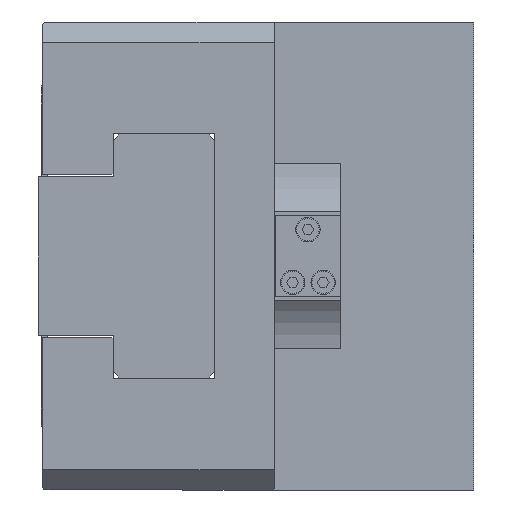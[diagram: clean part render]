
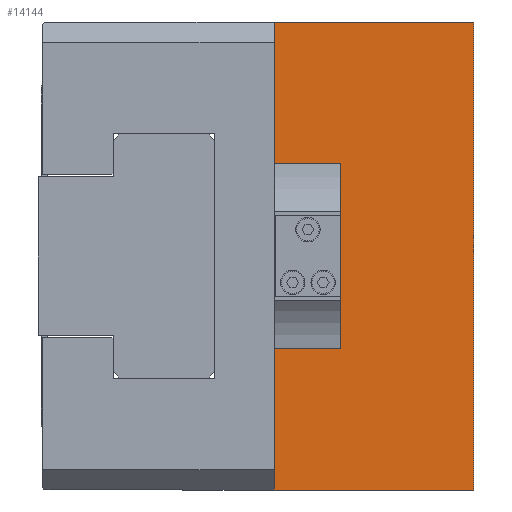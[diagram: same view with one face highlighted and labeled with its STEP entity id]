
A CAD part, left-side view. The second image highlights one B-rep face of the part: STEP entity #14144.
In plain terms, the highlighted planar face has unit normal (-1, 0, 0).
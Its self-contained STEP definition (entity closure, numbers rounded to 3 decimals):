
#177 = CARTESIAN_POINT ( 'NONE',  ( -93., 32.75, 22.619 ) ) ;
#327 = VECTOR ( 'NONE', #9361, 1000. ) ;
#944 = VECTOR ( 'NONE', #8785, 1000. ) ;
#964 = EDGE_CURVE ( 'NONE', #3361, #8315, #15090, .T. ) ;
#1025 = EDGE_CURVE ( 'NONE', #6261, #5104, #15487, .T. ) ;
#1749 = LINE ( 'NONE', #3157, #7707 ) ;
#1803 = ORIENTED_EDGE ( 'NONE', *, *, #6470, .F. ) ;
#1842 = ORIENTED_EDGE ( 'NONE', *, *, #9202, .F. ) ;
#2109 = VERTEX_POINT ( 'NONE', #14883 ) ;
#3157 = CARTESIAN_POINT ( 'NONE',  ( -93., 49., 57.5 ) ) ;
#3184 = DIRECTION ( 'NONE',  ( 0., 0., -1. ) ) ;
#3361 = VERTEX_POINT ( 'NONE', #8653 ) ;
#3592 = CARTESIAN_POINT ( 'NONE',  ( -93., 0., -57.5 ) ) ;
#4180 = VERTEX_POINT ( 'NONE', #9947 ) ;
#4374 = LINE ( 'NONE', #13923, #14530 ) ;
#4747 = ORIENTED_EDGE ( 'NONE', *, *, #5681, .T. ) ;
#4901 = ORIENTED_EDGE ( 'NONE', *, *, #1025, .T. ) ;
#5104 = VERTEX_POINT ( 'NONE', #11914 ) ;
#5651 = LINE ( 'NONE', #9360, #12436 ) ;
#5681 = EDGE_CURVE ( 'NONE', #10525, #8254, #13860, .T. ) ;
#5840 = CARTESIAN_POINT ( 'NONE',  ( -93., 49., 57.5 ) ) ;
#6261 = VERTEX_POINT ( 'NONE', #177 ) ;
#6470 = EDGE_CURVE ( 'NONE', #2109, #5104, #5651, .T. ) ;
#7047 = DIRECTION ( 'NONE',  ( 0., 0., -1. ) ) ;
#7548 = DIRECTION ( 'NONE',  ( -1., 0., 0. ) ) ;
#7674 = ORIENTED_EDGE ( 'NONE', *, *, #10792, .T. ) ;
#7707 = VECTOR ( 'NONE', #7047, 1000. ) ;
#7903 = LINE ( 'NONE', #13742, #944 ) ;
#8197 = CARTESIAN_POINT ( 'NONE',  ( -93., 32.75, 57.5 ) ) ;
#8254 = VERTEX_POINT ( 'NONE', #16196 ) ;
#8302 = VECTOR ( 'NONE', #3184, 1000. ) ;
#8315 = VERTEX_POINT ( 'NONE', #3592 ) ;
#8653 = CARTESIAN_POINT ( 'NONE',  ( -93., 0., 57.5 ) ) ;
#8745 = EDGE_LOOP ( 'NONE', ( #1803, #13970, #1842, #15770, #13026, #4747, #7674, #4901 ) ) ;
#8785 = DIRECTION ( 'NONE',  ( 0., 1., 0. ) ) ;
#9202 = EDGE_CURVE ( 'NONE', #8315, #4180, #14345, .T. ) ;
#9360 = CARTESIAN_POINT ( 'NONE',  ( -93., 49., -22.619 ) ) ;
#9361 = DIRECTION ( 'NONE',  ( 0., 0., -1. ) ) ;
#9406 = CARTESIAN_POINT ( 'NONE',  ( -93., 49., 57.5 ) ) ;
#9720 = CARTESIAN_POINT ( 'NONE',  ( -93., 0., -57.5 ) ) ;
#9947 = CARTESIAN_POINT ( 'NONE',  ( -93., 49., -57.5 ) ) ;
#10093 = AXIS2_PLACEMENT_3D ( 'NONE', #10133, #7548, #14070 ) ;
#10133 = CARTESIAN_POINT ( 'NONE',  ( -93., 0., 57.5 ) ) ;
#10296 = PLANE ( 'NONE',  #10093 ) ;
#10525 = VERTEX_POINT ( 'NONE', #5840 ) ;
#10614 = DIRECTION ( 'NONE',  ( 0., 0., -1. ) ) ;
#10792 = EDGE_CURVE ( 'NONE', #8254, #6261, #4374, .T. ) ;
#11914 = CARTESIAN_POINT ( 'NONE',  ( -93., 32.75, -22.619 ) ) ;
#12047 = CARTESIAN_POINT ( 'NONE',  ( -93., 0., 57.5 ) ) ;
#12049 = FACE_OUTER_BOUND ( 'NONE', #8745, .T. ) ;
#12273 = EDGE_CURVE ( 'NONE', #2109, #4180, #1749, .T. ) ;
#12436 = VECTOR ( 'NONE', #15747, 1000. ) ;
#12515 = EDGE_CURVE ( 'NONE', #3361, #10525, #7903, .T. ) ;
#12585 = DIRECTION ( 'NONE',  ( 0., -1., 0. ) ) ;
#13026 = ORIENTED_EDGE ( 'NONE', *, *, #12515, .T. ) ;
#13701 = VECTOR ( 'NONE', #10614, 1000. ) ;
#13742 = CARTESIAN_POINT ( 'NONE',  ( -93., 0., 57.5 ) ) ;
#13860 = LINE ( 'NONE', #9406, #327 ) ;
#13923 = CARTESIAN_POINT ( 'NONE',  ( -93., 49., 22.619 ) ) ;
#13970 = ORIENTED_EDGE ( 'NONE', *, *, #12273, .T. ) ;
#14070 = DIRECTION ( 'NONE',  ( 0., 0., 1. ) ) ;
#14144 = ADVANCED_FACE ( 'NONE', ( #12049 ), #10296, .T. ) ;
#14345 = LINE ( 'NONE', #9720, #14757 ) ;
#14530 = VECTOR ( 'NONE', #12585, 1000. ) ;
#14757 = VECTOR ( 'NONE', #15663, 1000. ) ;
#14883 = CARTESIAN_POINT ( 'NONE',  ( -93., 49., -22.619 ) ) ;
#15090 = LINE ( 'NONE', #12047, #13701 ) ;
#15487 = LINE ( 'NONE', #8197, #8302 ) ;
#15663 = DIRECTION ( 'NONE',  ( 0., 1., 0. ) ) ;
#15747 = DIRECTION ( 'NONE',  ( 0., -1., 0. ) ) ;
#15770 = ORIENTED_EDGE ( 'NONE', *, *, #964, .F. ) ;
#16196 = CARTESIAN_POINT ( 'NONE',  ( -93., 49., 22.619 ) ) ;
